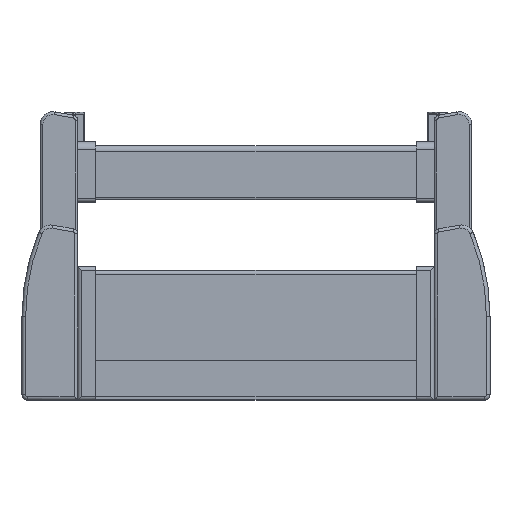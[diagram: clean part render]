
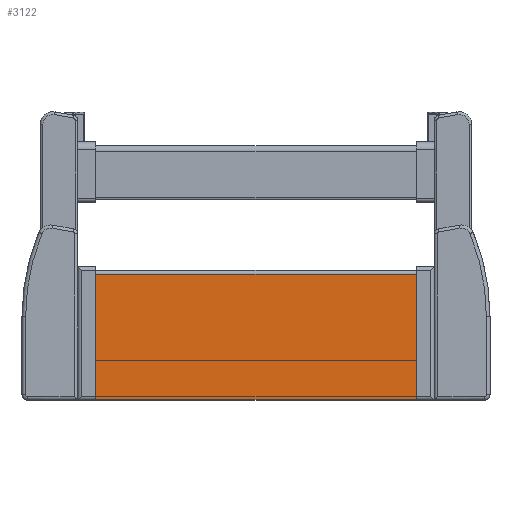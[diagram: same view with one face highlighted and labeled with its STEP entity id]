
A CAD part, top view. The second image highlights one B-rep face of the part: STEP entity #3122.
In plain terms, the highlighted planar face has unit normal (0, 0, 1).
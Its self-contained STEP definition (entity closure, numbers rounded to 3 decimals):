
#1004 = CARTESIAN_POINT ( 'NONE',  ( -88.8, -23., 1.4 ) ) ;
#1005 = DIRECTION ( 'NONE',  ( -1., 0., 0. ) ) ;
#1006 = VECTOR ( 'NONE', #1005, 1000. ) ;
#1007 = CARTESIAN_POINT ( 'NONE',  ( 162.556, -23., 1.4 ) ) ;
#1010 = DIRECTION ( 'NONE',  ( 0., 1., 0. ) ) ;
#1011 = VECTOR ( 'NONE', #1010, 1000. ) ;
#1012 = CARTESIAN_POINT ( 'NONE',  ( -88.8, -92.5, 1.4 ) ) ;
#1013 = LINE ( 'NONE', #1012, #1011 ) ;
#1015 = LINE ( 'NONE', #1007, #1006 ) ;
#1234 = CARTESIAN_POINT ( 'NONE',  ( -88.8, -92.5, 1.4 ) ) ;
#1240 = FACE_OUTER_BOUND ( 'NONE', #3123, .T. ) ;
#1241 = DIRECTION ( 'NONE',  ( 0., 0., -1. ) ) ;
#1242 = CARTESIAN_POINT ( 'NONE',  ( 162.556, -92.5, 1.4 ) ) ;
#1243 = AXIS2_PLACEMENT_3D ( 'NONE', #1242, #1241, #1257 ) ;
#1244 = PLANE ( 'NONE',  #1243 ) ;
#1257 = DIRECTION ( 'NONE',  ( 0., 1., 0. ) ) ;
#1622 = LINE ( 'NONE', #1625, #1624 ) ;
#1623 = DIRECTION ( 'NONE',  ( -1., 0., 0. ) ) ;
#1624 = VECTOR ( 'NONE', #1623, 1000. ) ;
#1625 = CARTESIAN_POINT ( 'NONE',  ( 162.556, -92.5, 1.4 ) ) ;
#2953 = VERTEX_POINT ( 'NONE', #6801 ) ;
#2955 = EDGE_CURVE ( 'NONE', #2956, #2953, #6798, .T. ) ;
#2956 = VERTEX_POINT ( 'NONE', #6794 ) ;
#3118 = EDGE_CURVE ( 'NONE', #2956, #3119, #1622, .T. ) ;
#3119 = VERTEX_POINT ( 'NONE', #1234 ) ;
#3122 = ADVANCED_FACE ( 'NONE', ( #1240 ), #1244, .F. ) ;
#3123 = EDGE_LOOP ( 'NONE', ( #3124, #3125, #3126, #3129 ) ) ;
#3124 = ORIENTED_EDGE ( 'NONE', *, *, #3118, .F. ) ;
#3125 = ORIENTED_EDGE ( 'NONE', *, *, #2955, .T. ) ;
#3126 = ORIENTED_EDGE ( 'NONE', *, *, #3127, .T. ) ;
#3127 = EDGE_CURVE ( 'NONE', #2953, #3128, #1015, .T. ) ;
#3128 = VERTEX_POINT ( 'NONE', #1004 ) ;
#3129 = ORIENTED_EDGE ( 'NONE', *, *, #3130, .F. ) ;
#3130 = EDGE_CURVE ( 'NONE', #3119, #3128, #1013, .T. ) ;
#6794 = CARTESIAN_POINT ( 'NONE',  ( 88.8, -92.5, 1.4 ) ) ;
#6795 = DIRECTION ( 'NONE',  ( 0., 1., 0. ) ) ;
#6796 = VECTOR ( 'NONE', #6795, 1000. ) ;
#6797 = CARTESIAN_POINT ( 'NONE',  ( 88.8, -92.5, 1.4 ) ) ;
#6798 = LINE ( 'NONE', #6797, #6796 ) ;
#6801 = CARTESIAN_POINT ( 'NONE',  ( 88.8, -23., 1.4 ) ) ;
